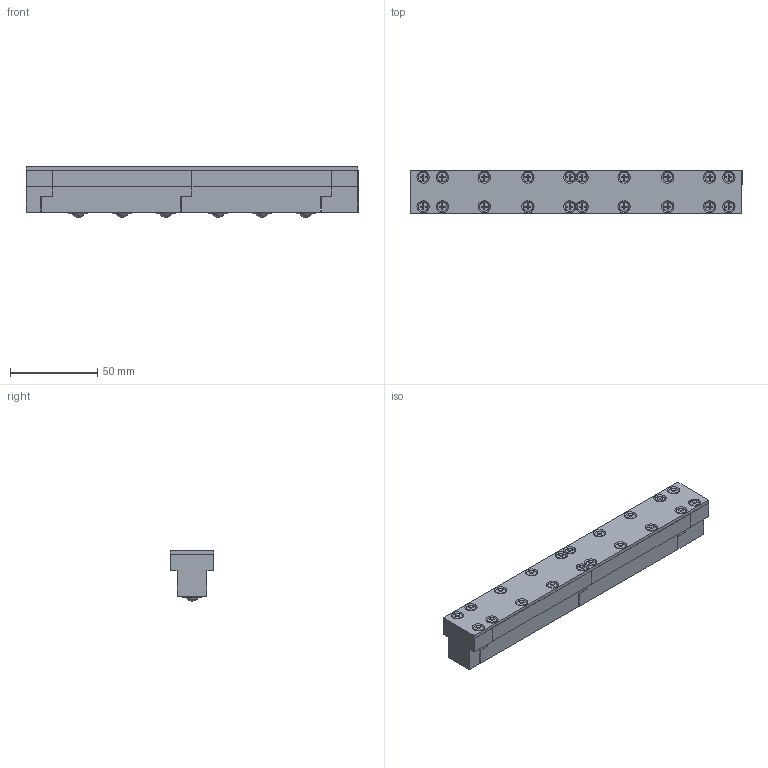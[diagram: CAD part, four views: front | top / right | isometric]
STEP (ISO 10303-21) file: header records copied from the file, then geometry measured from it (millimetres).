
FILE_DESCRIPTION(/* description */ (''),/* implementation_level */ '2;1');
FILE_NAME(/* name */ 'Z:\34-Tei\01-web 3Dデータ\43-ISR-18T\X2\578B\X0\\ISR-18T-190.stp',/* time_stamp */ '2015-01-16T10:28:08+09:00',/* author */ ('yamaki'),/* organization */ (''),/* preprocessor_version */ 'ST-DEVELOPER v15.6',/* originating_system */ 'Autodesk Inventor 2015',/* authorisation */ '');
FILE_SCHEMA (('AUTOMOTIVE_DESIGN { 1 0 10303 214 3 1 1 }'));
Length unit declared in the file: millimetre
Products named in the file (9): 4906; 4903TB; 4903CB; JIS B 1111 - Csunk M3 x 6 - H; JIS B 1176 - M3 x 10; 4903SL; A108AA; 4903PS; 4903AA
Bounding box: 190 x 25 x 28.97 mm (x, y, z)
Volume: 89577.8 mm3; surface area: 57581.3 mm2
Topology: 43 solids, 43 shells, 1110 faces, 2748 edges, 1766 vertices
Faces by surface type: plane 422, cone 355, cylinder 211, torus 110, sphere 6, bspline 6
Full cylindrical faces by diameter (mm): 2 x9, 2.459 x26, 2.693 x20, 3 x26, 3.242 x6, 3.5 x26, 5.5 x26, 6.2 x3, 8 x1, 10 x6, 13.4 x6, 13.9 x6, 14 x6, 16 x6, 19.8 x6, 20 x6
Entity records: 7773 total; most frequent: CARTESIAN_POINT 1558, DIRECTION 1304, ORIENTED_EDGE 1020, AXIS2_PLACEMENT_3D 528, EDGE_CURVE 510, EDGE_LOOP 451, VERTEX_POINT 395, FACE_OUTER_BOUND 249
